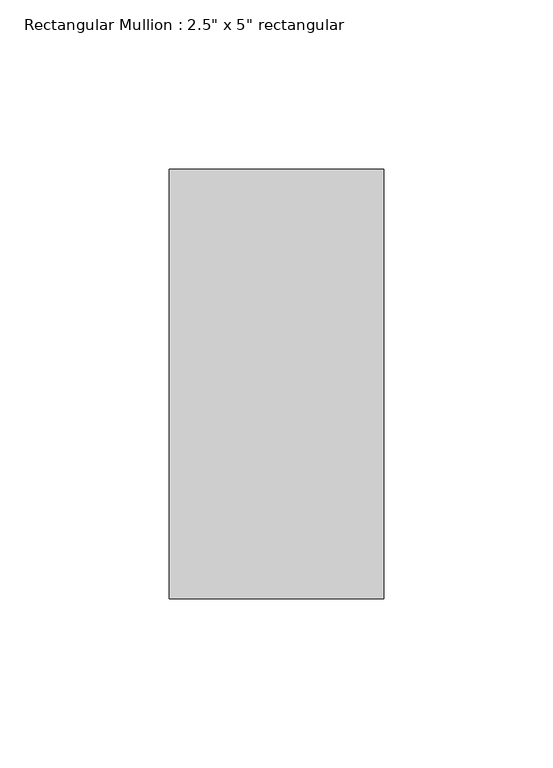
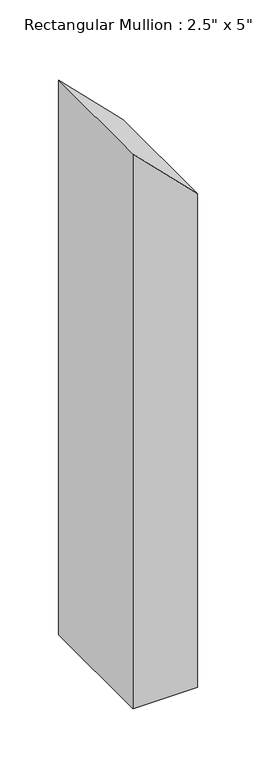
"""IFC4 building model written with IfcOpenShell, lengths in millimetres: member geometry."""

from ifc_helpers import new_model, si_unit, frame, origin, place, context, project, spatial, polyline, outline, extrude, source, transform, mapped, element, save


def member_c24abd12(model_context):
    return source(origin(), model_context, "Body", "SweptSolid", [
        extrude(outline(polyline([(-63.5, 31.75), (0.0, -31.75), (-577.85, -31.75), (-577.85, 31.75), (-63.5, 31.75)])), frame((0.0, -63.5, 0.0), z_axis=(0.0, 1.0, 0.0), x_axis=(0.0, 0.0, 1.0)), (0.0, 0.0, 1.0), 127.0),
    ])


if __name__ == "__main__":
    model = new_model("IFC4")
    model_context = context("Model", 3, world=origin())
    ifc_project = project(units=[si_unit("LENGTHUNIT", "METRE", prefix="MILLI")], contexts=[model_context])
    site = spatial("IfcSite", under=ifc_project)
    building = spatial("IfcBuilding", under=site)
    placement = place(None, origin())
    member_shape = member_c24abd12(model_context)
    element("IfcMember", 1, ObjectType="Rectangular Mullion : 2.5\" x 5\" rectangular", at=placement, inside=building, context=model_context, shape_type="MappedRepresentation", body=[
        mapped(member_shape, transform((0.0, 0.0, 0.0), x_axis=(1.0, 0.0, 0.0), y_axis=(0.0, 1.0, 0.0), z_axis=(0.0, 0.0, 1.0))),
    ])
    save(model, "model.ifc")
